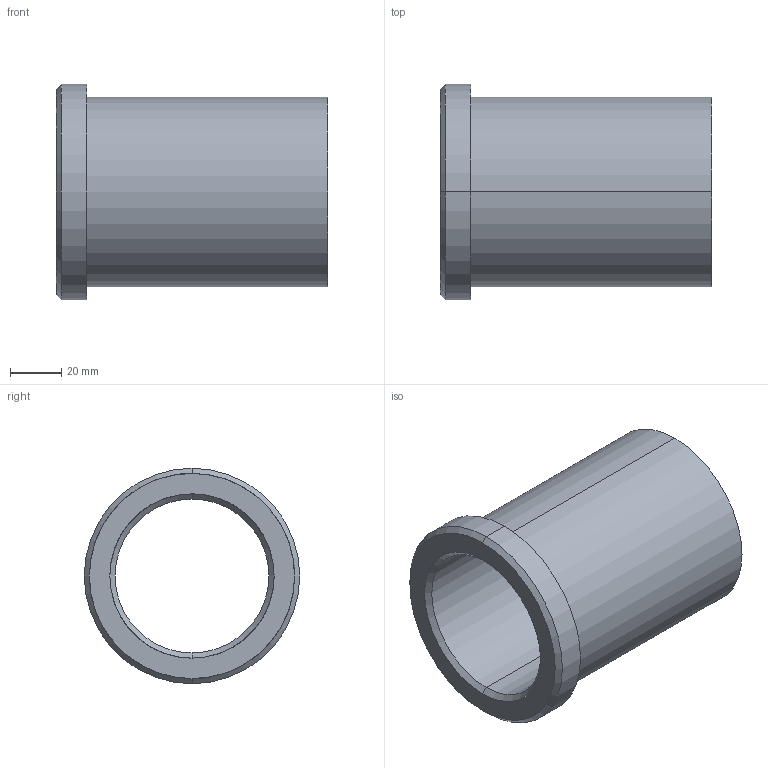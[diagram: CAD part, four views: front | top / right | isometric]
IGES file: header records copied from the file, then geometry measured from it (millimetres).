
Start section: START RECORD GO HERE.
Global section: file name: 353-60X106.igs; native system: DASSAULT SYSTEMES CATIA V5 R20 - www.3ds.com; preprocessor: CATIA Version 5 Release 20 ; author: Utente; organization: NB04-ASUS; date: 20210514.195928; units: millimetre
Bounding box: 106 x 84 x 84 mm (x, y, z)
Surface area: 49660.1 mm2 (no closed solid volume)
Topology: 0 solids, 0 shells, 15 faces, 96 edges, 96 vertices
Faces by surface type: revolution 12, plane 3
